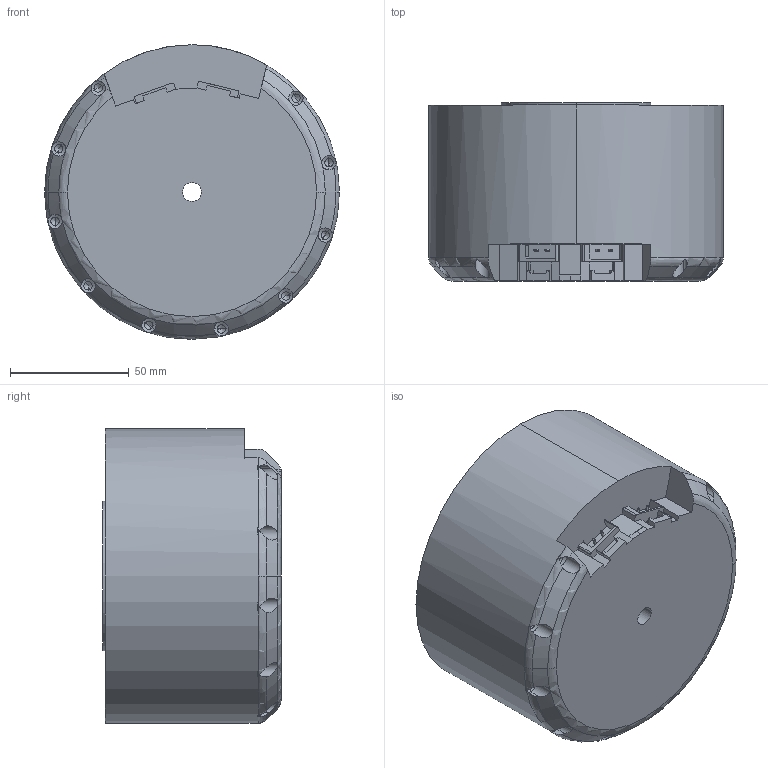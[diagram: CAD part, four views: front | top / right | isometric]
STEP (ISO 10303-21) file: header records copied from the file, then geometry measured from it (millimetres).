
FILE_DESCRIPTION (( 'STEP AP203' ), '1' );
FILE_NAME ('RMBOT-124-25-P1-225Nm-2PC.STEP', '2025-05-08T09:19:50', ( '' ), ( '' ), 'SwSTEP 2.0', 'SolidWorks 2019', '' );
FILE_SCHEMA (( 'CONFIG_CONTROL_DESIGN' ));
Length unit declared in the file: millimetre
Products named in the file (1): RMBOT-124-25-P1-225Nm-2PC
Bounding box: 124 x 75 x 124 mm (x, y, z)
Volume: 861109 mm3; surface area: 58307.3 mm2
Topology: 1 solids, 1 shells, 347 faces, 888 edges, 508 vertices
Faces by surface type: cylinder 129, cone 126, plane 80, torus 8, sphere 4
Entity records: 10510 total; most frequent: CARTESIAN_POINT 2370, DIRECTION 1747, ORIENTED_EDGE 1624, EDGE_CURVE 812, AXIS2_PLACEMENT_3D 653, VERTEX_POINT 504, LINE 441, VECTOR 441
